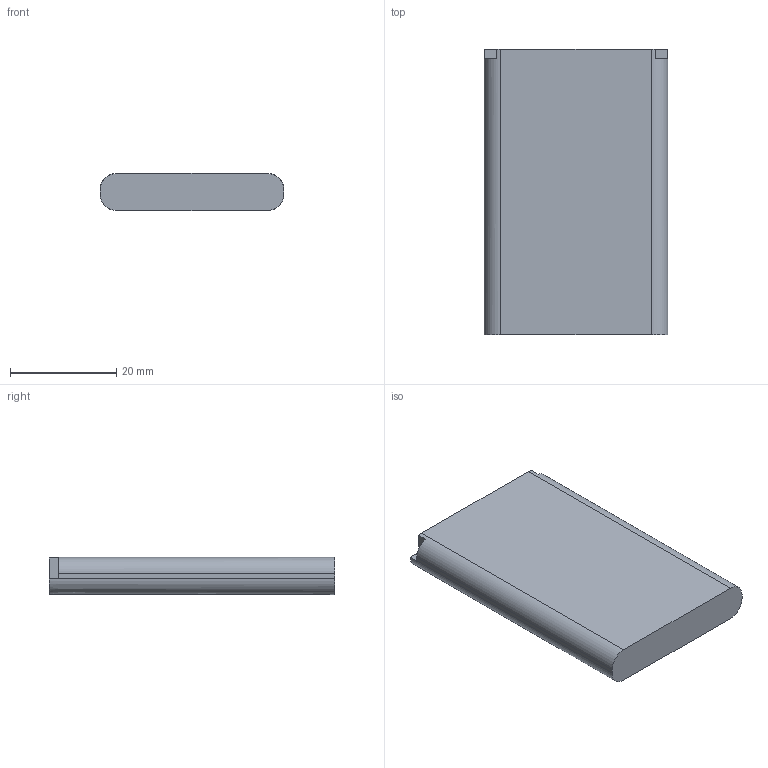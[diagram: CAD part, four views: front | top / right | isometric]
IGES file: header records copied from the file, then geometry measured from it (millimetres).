
Start section:  PTC IGES file: battery-1200mah-welldone_prt.igs
Global section: file name: battery-1200mah-welldone_prt.igs; native system: Pro/ENGINEER by Parametric Technology Corporation; preprocessor: 2006170; author: GRA; organization: Unknown; date: 20080630.105137; units: millimetre
Bounding box: 34.6 x 53.8 x 7 mm (x, y, z)
Surface area: 4687.8 mm2 (no closed solid volume)
Topology: 0 solids, 0 shells, 31 faces, 156 edges, 156 vertices
Faces by surface type: bspline 27, revolution 4
